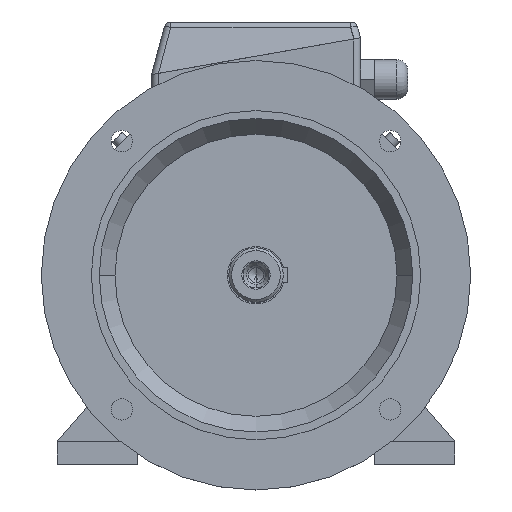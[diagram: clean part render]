
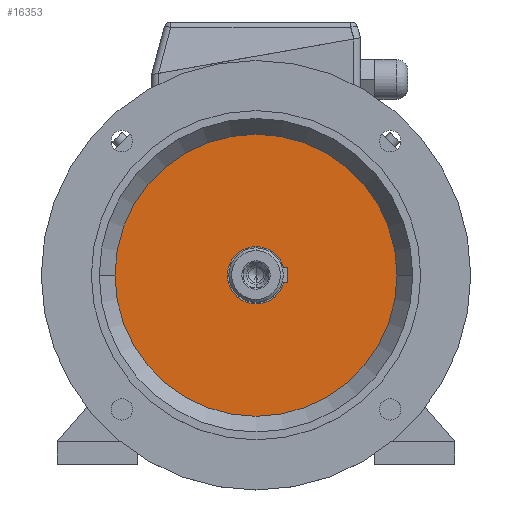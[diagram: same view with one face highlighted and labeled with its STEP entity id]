
A CAD part, top view. The second image highlights one B-rep face of the part: STEP entity #16353.
In plain terms, the highlighted planar face has unit normal (0, 0, 1).
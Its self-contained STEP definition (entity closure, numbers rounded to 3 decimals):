
#18048 = EDGE_CURVE ( 'NONE', #15324, #15593, #12602, .T. ) ;
#1984 = CIRCLE ( 'NONE', #1985, 98.5 ) ;
#1985 = AXIS2_PLACEMENT_3D ( 'NONE', #1989, #1990, #1991 ) ;
#1989 = CARTESIAN_POINT ( 'NONE',  ( 0., 0., 47. ) ) ;
#1990 = DIRECTION ( 'NONE',  ( 0., 0., -1. ) ) ;
#1991 = DIRECTION ( 'NONE',  ( -1., 0., 0. ) ) ;
#6124 = ORIENTED_EDGE ( 'NONE', *, *, #18048, .F. ) ;
#6749 = ORIENTED_EDGE ( 'NONE', *, *, #7441, .F. ) ;
#7441 = EDGE_CURVE ( 'NONE', #15593, #15324, #1984, .T. ) ;
#10209 = CARTESIAN_POINT ( 'NONE',  ( -98.5, 0., 47. ) ) ;
#10382 = CARTESIAN_POINT ( 'NONE',  ( 98.5, 0., 47. ) ) ;
#11392 = FACE_OUTER_BOUND ( 'NONE', #16058, .T. ) ;
#11393 = PLANE ( 'NONE',  #11394 ) ;
#11394 = AXIS2_PLACEMENT_3D ( 'NONE', #11395, #11408, #11409 ) ;
#11395 = CARTESIAN_POINT ( 'NONE',  ( 0., 98.5, 47. ) ) ;
#11408 = DIRECTION ( 'NONE',  ( 0., 0., 1. ) ) ;
#11409 = DIRECTION ( 'NONE',  ( 1., 0., 0. ) ) ;
#12602 = CIRCLE ( 'NONE', #12603, 98.5 ) ;
#12603 = AXIS2_PLACEMENT_3D ( 'NONE', #12604, #12605, #12606 ) ;
#12604 = CARTESIAN_POINT ( 'NONE',  ( 0., 0., 47. ) ) ;
#12605 = DIRECTION ( 'NONE',  ( 0., 0., -1. ) ) ;
#12606 = DIRECTION ( 'NONE',  ( -1., 0., 0. ) ) ;
#15324 = VERTEX_POINT ( 'NONE', #10209 ) ;
#15593 = VERTEX_POINT ( 'NONE', #10382 ) ;
#16058 = EDGE_LOOP ( 'NONE', ( #6749, #6124 ) ) ;
#16353 = ADVANCED_FACE ( 'NONE', ( #11392 ), #11393, .T. ) ;
